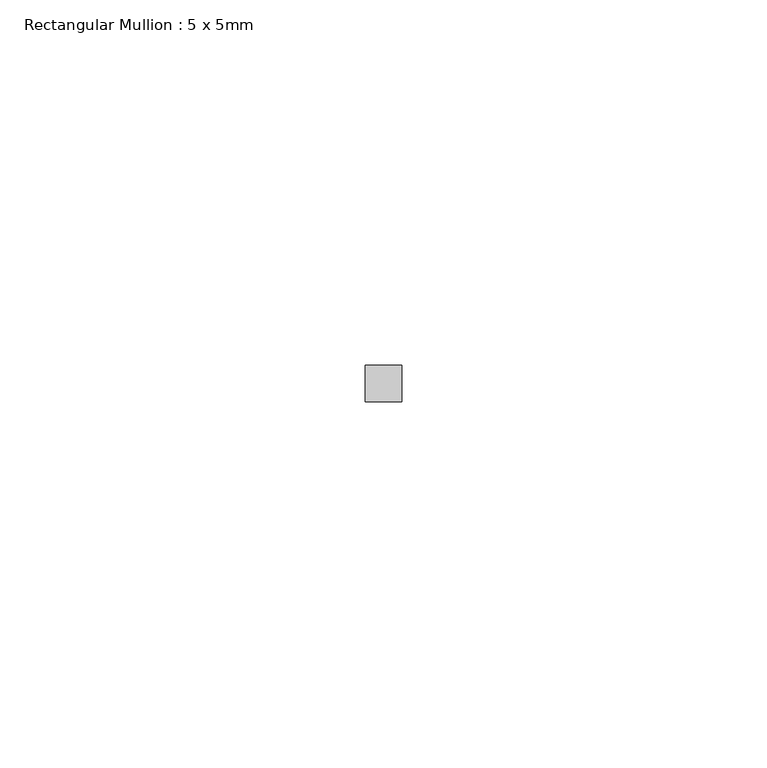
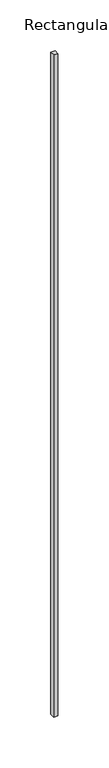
"""IFC4 building model written with IfcOpenShell, lengths in millimetres: member geometry, Rectangular Mullion : 5 x 5mm."""

from ifc_helpers import new_model, si_unit, frame, origin, place, context, project, spatial, polyline, outline, extrude, source, transform, mapped, element, save


def rectangular_mullion_5_x_5mm_a12ae60d(model_context):
    return source(origin(), model_context, "Body", "SweptSolid", [
        extrude(outline(polyline([(0.0, 2.5), (0.0, -2.5), (-5.0, -2.5), (-5.0, 2.5), (0.0, 2.5)])), frame((0.0, 0.0, -792.5), z_axis=(0.0, 0.0, 1.0), x_axis=(1.0, 0.0, 0.0)), (0.0, 0.0, 1.0), 792.5),
    ])


if __name__ == "__main__":
    model = new_model("IFC4")
    model_context = context("Model", 3, world=origin())
    ifc_project = project(units=[si_unit("LENGTHUNIT", "METRE", prefix="MILLI")], contexts=[model_context])
    site = spatial("IfcSite", under=ifc_project)
    building = spatial("IfcBuilding", under=site)
    placement = place(None, origin())
    rectangular_mullion_5_x_5mm_shape = rectangular_mullion_5_x_5mm_a12ae60d(model_context)
    element("IfcMember", 1, ObjectType="Rectangular Mullion : 5 x 5mm", at=placement, inside=building, context=model_context, shape_type="MappedRepresentation", body=[
        mapped(rectangular_mullion_5_x_5mm_shape, transform((0.0, 0.0, 0.0), x_axis=(1.0, 0.0, 0.0), y_axis=(0.0, 1.0, 0.0), z_axis=(0.0, 0.0, 1.0))),
    ])
    save(model, "model.ifc")
